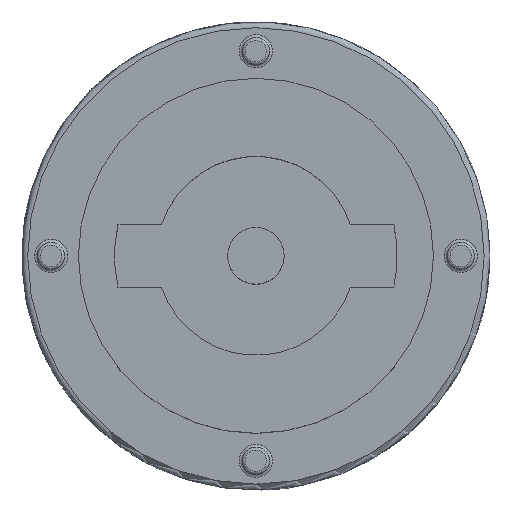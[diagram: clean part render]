
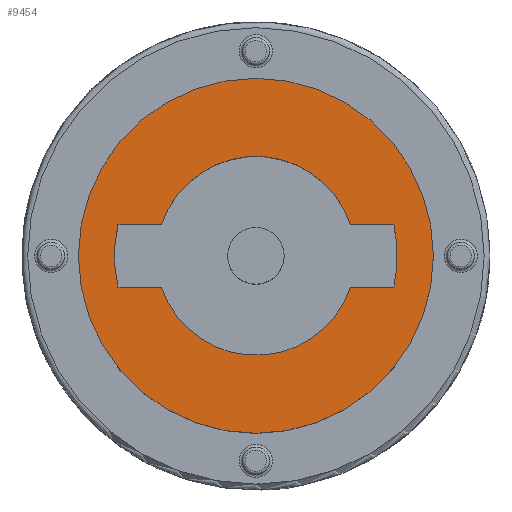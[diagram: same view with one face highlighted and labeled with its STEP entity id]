
A CAD part, top view. The second image highlights one B-rep face of the part: STEP entity #9454.
In plain terms, the highlighted planar face has unit normal (0, 0, 1).
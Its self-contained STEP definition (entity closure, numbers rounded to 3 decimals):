
#48 = LINE ( 'NONE', #7155, #6604 ) ;
#137 = DIRECTION ( 'NONE',  ( 1., 0., 0. ) ) ;
#198 = CARTESIAN_POINT ( 'NONE',  ( 0., 0., 5. ) ) ;
#394 = AXIS2_PLACEMENT_3D ( 'NONE', #5975, #9930, #3019 ) ;
#504 = VERTEX_POINT ( 'NONE', #580 ) ;
#514 = ORIENTED_EDGE ( 'NONE', *, *, #3439, .T. ) ;
#580 = CARTESIAN_POINT ( 'NONE',  ( -7.071, -1.6, 5. ) ) ;
#583 = FACE_BOUND ( 'NONE', #9517, .T. ) ;
#641 = PLANE ( 'NONE',  #394 ) ;
#703 = VERTEX_POINT ( 'NONE', #6212 ) ;
#723 = CARTESIAN_POINT ( 'NONE',  ( 0., 0., 5. ) ) ;
#875 = CARTESIAN_POINT ( 'NONE',  ( 9.1, 0., 5. ) ) ;
#1035 = VERTEX_POINT ( 'NONE', #1051 ) ;
#1051 = CARTESIAN_POINT ( 'NONE',  ( -4.843, -1.6, 5. ) ) ;
#1069 = CARTESIAN_POINT ( 'NONE',  ( 7.071, 1.6, 5. ) ) ;
#1133 = DIRECTION ( 'NONE',  ( -1., 0., 0. ) ) ;
#1280 = AXIS2_PLACEMENT_3D ( 'NONE', #3770, #3574, #7481 ) ;
#1516 = CARTESIAN_POINT ( 'NONE',  ( 7.071, 1.6, 5. ) ) ;
#1552 = CARTESIAN_POINT ( 'NONE',  ( 7.071, -1.6, 5. ) ) ;
#1644 = LINE ( 'NONE', #3211, #6044 ) ;
#1673 = ORIENTED_EDGE ( 'NONE', *, *, #3002, .F. ) ;
#1746 = CIRCLE ( 'NONE', #8242, 9.1 ) ;
#1781 = DIRECTION ( 'NONE',  ( 0., 0., 1. ) ) ;
#1974 = ORIENTED_EDGE ( 'NONE', *, *, #5224, .F. ) ;
#2085 = CIRCLE ( 'NONE', #8899, 7.25 ) ;
#2241 = AXIS2_PLACEMENT_3D ( 'NONE', #723, #3819, #3054 ) ;
#2344 = VERTEX_POINT ( 'NONE', #875 ) ;
#2473 = CARTESIAN_POINT ( 'NONE',  ( -7.071, -1.6, 5. ) ) ;
#2506 = DIRECTION ( 'NONE',  ( 1., 0., 0. ) ) ;
#2522 = DIRECTION ( 'NONE',  ( 1., 0., 0. ) ) ;
#2712 = CARTESIAN_POINT ( 'NONE',  ( 0., 0., 5. ) ) ;
#2762 = VECTOR ( 'NONE', #2522, 1000. ) ;
#2948 = EDGE_CURVE ( 'NONE', #6676, #4317, #6112, .T. ) ;
#2974 = FACE_OUTER_BOUND ( 'NONE', #7972, .T. ) ;
#3002 = EDGE_CURVE ( 'NONE', #4923, #4610, #48, .T. ) ;
#3019 = DIRECTION ( 'NONE',  ( 1., 0., 0. ) ) ;
#3054 = DIRECTION ( 'NONE',  ( 1., 0., 0. ) ) ;
#3134 = VECTOR ( 'NONE', #7214, 1000. ) ;
#3139 = CARTESIAN_POINT ( 'NONE',  ( 0., 0., 5. ) ) ;
#3211 = CARTESIAN_POINT ( 'NONE',  ( 7.071, -1.6, 5. ) ) ;
#3439 = EDGE_CURVE ( 'NONE', #2344, #2344, #1746, .T. ) ;
#3473 = LINE ( 'NONE', #1069, #3134 ) ;
#3574 = DIRECTION ( 'NONE',  ( 0., 0., 1. ) ) ;
#3770 = CARTESIAN_POINT ( 'NONE',  ( 0., 0., 5. ) ) ;
#3819 = DIRECTION ( 'NONE',  ( 0., 0., 1. ) ) ;
#4304 = CARTESIAN_POINT ( 'NONE',  ( -4.843, 1.6, 5. ) ) ;
#4317 = VERTEX_POINT ( 'NONE', #1516 ) ;
#4522 = CIRCLE ( 'NONE', #2241, 5.1 ) ;
#4610 = VERTEX_POINT ( 'NONE', #5779 ) ;
#4787 = VERTEX_POINT ( 'NONE', #9888 ) ;
#4831 = DIRECTION ( 'NONE',  ( 1., 0., 0. ) ) ;
#4923 = VERTEX_POINT ( 'NONE', #4304 ) ;
#5224 = EDGE_CURVE ( 'NONE', #703, #6676, #1644, .T. ) ;
#5413 = EDGE_CURVE ( 'NONE', #4317, #4787, #3473, .T. ) ;
#5672 = ORIENTED_EDGE ( 'NONE', *, *, #7045, .F. ) ;
#5779 = CARTESIAN_POINT ( 'NONE',  ( -7.071, 1.6, 5. ) ) ;
#5864 = DIRECTION ( 'NONE',  ( 0., 0., 1. ) ) ;
#5885 = ORIENTED_EDGE ( 'NONE', *, *, #8597, .F. ) ;
#5975 = CARTESIAN_POINT ( 'NONE',  ( 0., 0., 5. ) ) ;
#6044 = VECTOR ( 'NONE', #2506, 1000. ) ;
#6112 = CIRCLE ( 'NONE', #8237, 7.25 ) ;
#6212 = CARTESIAN_POINT ( 'NONE',  ( 4.843, -1.6, 5. ) ) ;
#6245 = DIRECTION ( 'NONE',  ( -1., 0., 0. ) ) ;
#6293 = ORIENTED_EDGE ( 'NONE', *, *, #2948, .F. ) ;
#6604 = VECTOR ( 'NONE', #6245, 1000. ) ;
#6676 = VERTEX_POINT ( 'NONE', #1552 ) ;
#6951 = CIRCLE ( 'NONE', #1280, 5.1 ) ;
#7045 = EDGE_CURVE ( 'NONE', #4787, #4923, #4522, .T. ) ;
#7152 = ORIENTED_EDGE ( 'NONE', *, *, #8470, .F. ) ;
#7155 = CARTESIAN_POINT ( 'NONE',  ( -7.071, 1.6, 5. ) ) ;
#7214 = DIRECTION ( 'NONE',  ( -1., 0., 0. ) ) ;
#7481 = DIRECTION ( 'NONE',  ( 1., 0., 0. ) ) ;
#7960 = EDGE_CURVE ( 'NONE', #504, #1035, #9481, .T. ) ;
#7972 = EDGE_LOOP ( 'NONE', ( #514 ) ) ;
#8237 = AXIS2_PLACEMENT_3D ( 'NONE', #198, #1781, #4831 ) ;
#8242 = AXIS2_PLACEMENT_3D ( 'NONE', #3139, #9332, #137 ) ;
#8470 = EDGE_CURVE ( 'NONE', #4610, #504, #2085, .T. ) ;
#8597 = EDGE_CURVE ( 'NONE', #1035, #703, #6951, .T. ) ;
#8899 = AXIS2_PLACEMENT_3D ( 'NONE', #2712, #5864, #1133 ) ;
#9332 = DIRECTION ( 'NONE',  ( 0., 0., 1. ) ) ;
#9407 = ORIENTED_EDGE ( 'NONE', *, *, #7960, .F. ) ;
#9454 = ADVANCED_FACE ( 'NONE', ( #583, #2974 ), #641, .T. ) ;
#9481 = LINE ( 'NONE', #2473, #2762 ) ;
#9517 = EDGE_LOOP ( 'NONE', ( #9706, #6293, #1974, #5885, #9407, #7152, #1673, #5672 ) ) ;
#9706 = ORIENTED_EDGE ( 'NONE', *, *, #5413, .F. ) ;
#9888 = CARTESIAN_POINT ( 'NONE',  ( 4.843, 1.6, 5. ) ) ;
#9930 = DIRECTION ( 'NONE',  ( 0., 0., 1. ) ) ;
